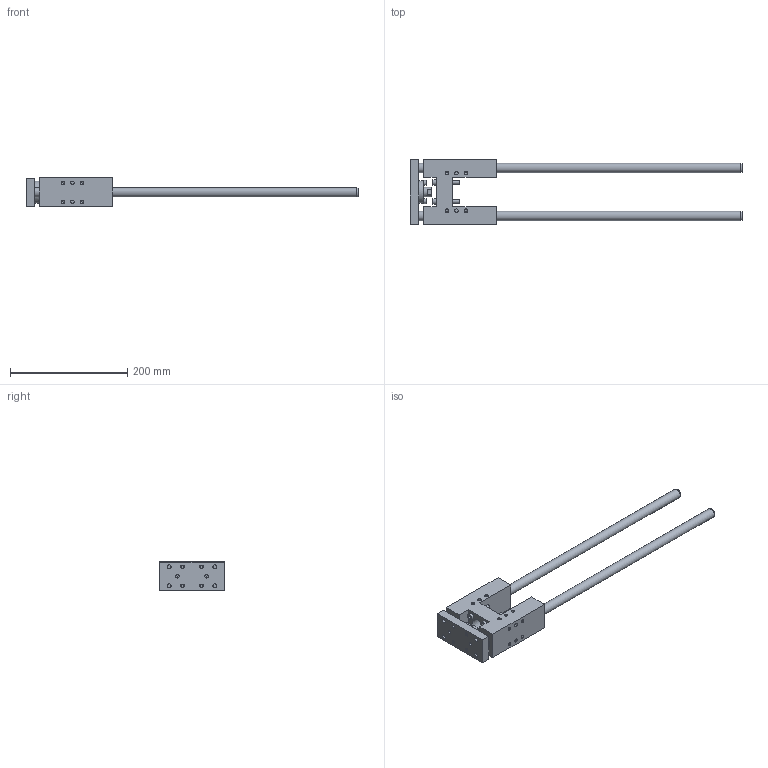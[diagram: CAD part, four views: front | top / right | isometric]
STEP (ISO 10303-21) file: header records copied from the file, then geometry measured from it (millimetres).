
FILE_DESCRIPTION( ( 'STEP AP214' ), '1' );
FILE_NAME( 'U:/Etudes/Top Solid/BIBLIO 3D AVM/TOP/PNEUMATIQUE/GUIDAGES/Type 32 (en H)/R_Renforcée/324R7_30.step', '2005-05-27T08:53:00', ( ' ' ), ( ' ' ), 'XStep 1.0', ' ', ' ' );
FILE_SCHEMA( ( 'automotive_design' ) );
Length unit declared in the file: metre
Products named in the file (2): 1; 2
Bounding box: 567 x 112 x 49 mm (x, y, z)
Volume: 679784.6 mm3; surface area: 152382 mm2
Topology: 2 solids, 5 shells, 269 faces, 602 edges, 401 vertices
Faces by surface type: plane 128, cylinder 96, cone 45
Full cylindrical faces by diameter (mm): 4.918 x32, 5 x4, 5.5 x2, 6 x16, 6.2 x12, 6.5 x4, 6.6 x4, 8.5 x2, 8.647 x2, 10 x4, 11 x4, 16 x5, 18 x1, 22.8 x1, 25 x1, 30 x1, 38 x1
Entity records: 8627 total; most frequent: CARTESIAN_POINT 1195, DIRECTION 1138, ORIENTED_EDGE 772, EDGE_LOOP 500, AXIS2_PLACEMENT_3D 487, EDGE_CURVE 386, FACE_OUTER_BOUND 365, VERTEX_POINT 340
